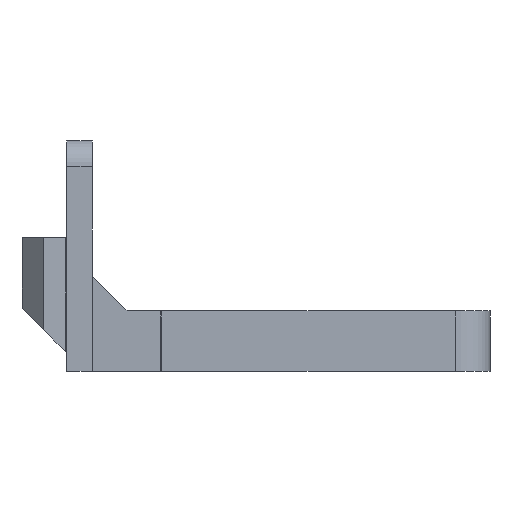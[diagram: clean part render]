
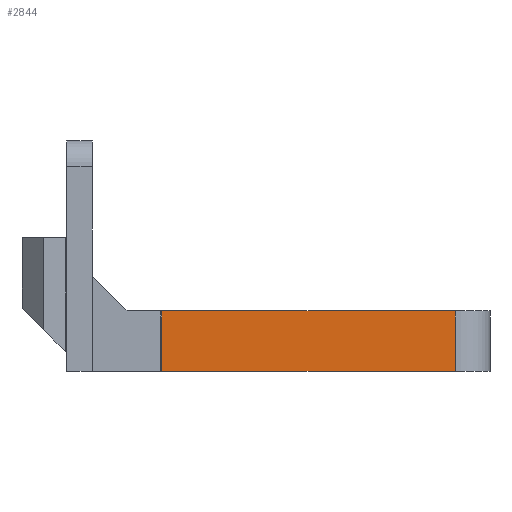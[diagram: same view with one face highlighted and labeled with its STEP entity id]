
A CAD part, front view. The second image highlights one B-rep face of the part: STEP entity #2844.
In plain terms, the highlighted planar face has unit normal (0, -1, 0).
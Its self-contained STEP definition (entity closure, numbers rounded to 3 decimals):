
#108=PLANE('',#3118);
#264=FACE_OUTER_BOUND('',#458,.T.);
#458=EDGE_LOOP('',(#2300,#2301,#2302,#2303));
#570=LINE('',#4274,#861);
#682=LINE('',#4568,#973);
#683=LINE('',#4573,#974);
#684=LINE('',#4576,#975);
#861=VECTOR('',#3399,10.);
#973=VECTOR('',#3729,10.);
#974=VECTOR('',#3736,10.);
#975=VECTOR('',#3741,10.);
#1293=VERTEX_POINT('',#4271);
#1294=VERTEX_POINT('',#4273);
#1367=VERTEX_POINT('',#4566);
#1368=VERTEX_POINT('',#4572);
#1545=EDGE_CURVE('',#1293,#1294,#570,.T.);
#1694=EDGE_CURVE('',#1367,#1293,#682,.T.);
#1696=EDGE_CURVE('',#1368,#1294,#683,.T.);
#1698=EDGE_CURVE('',#1367,#1368,#684,.F.);
#2300=ORIENTED_EDGE('',*,*,#1694,.F.);
#2301=ORIENTED_EDGE('',*,*,#1698,.T.);
#2302=ORIENTED_EDGE('',*,*,#1696,.T.);
#2303=ORIENTED_EDGE('',*,*,#1545,.F.);
#2844=ADVANCED_FACE('',(#264),#108,.T.);
#3118=AXIS2_PLACEMENT_3D('',#4575,#3739,#3740);
#3399=DIRECTION('',(-1.,0.,0.));
#3729=DIRECTION('',(0.,0.,-1.));
#3736=DIRECTION('',(0.,0.,-1.));
#3739=DIRECTION('center_axis',(0.,-1.,0.));
#3740=DIRECTION('ref_axis',(1.,0.,0.));
#3741=DIRECTION('',(1.,0.,0.));
#4271=CARTESIAN_POINT('',(141.15,-21.,-144.478));
#4273=CARTESIAN_POINT('',(107.15,-21.,-144.478));
#4274=CARTESIAN_POINT('',(141.15,-21.,-144.478));
#4566=CARTESIAN_POINT('',(141.15,-21.,-137.478));
#4568=CARTESIAN_POINT('',(141.15,-21.,-142.124));
#4572=CARTESIAN_POINT('',(107.15,-21.,-137.478));
#4573=CARTESIAN_POINT('',(107.15,-21.,-142.124));
#4575=CARTESIAN_POINT('Origin',(103.15,-21.,-142.124));
#4576=CARTESIAN_POINT('',(122.15,-21.,-137.478));
